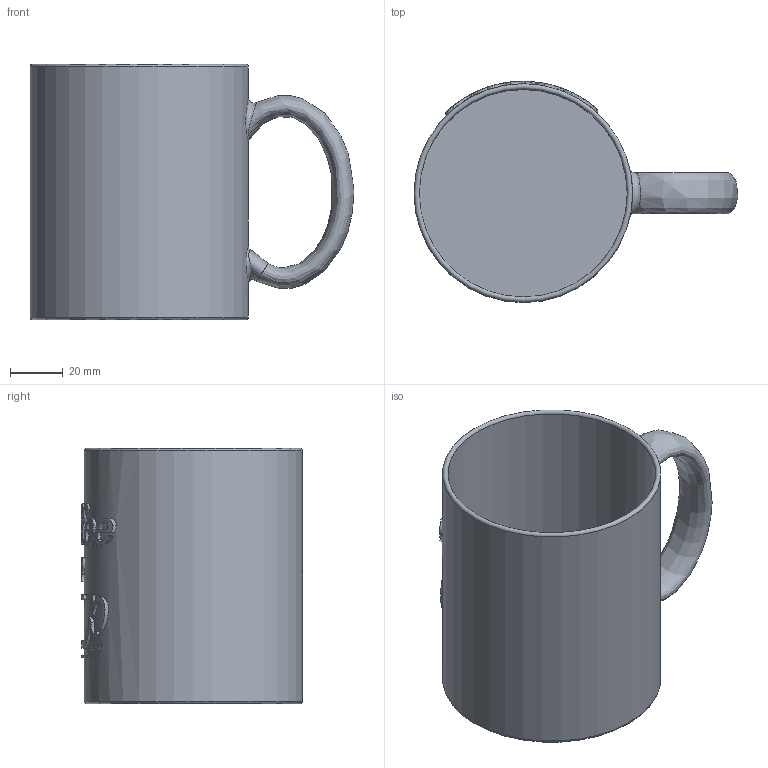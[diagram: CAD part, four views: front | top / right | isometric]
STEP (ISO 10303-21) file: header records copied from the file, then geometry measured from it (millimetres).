
FILE_DESCRIPTION(/* description */ (''),/* implementation_level */ '2;1');
FILE_NAME(/* name */ 'Taza_DibujoMal.stp',/* time_stamp */ '2026-06-15T21:47:00+02:00',/* author */ ('algob'),/* organization */ (''),/* preprocessor_version */ 'ST-DEVELOPER v19.2',/* originating_system */ 'Autodesk Inventor 2024',/* authorisation */ '');
FILE_SCHEMA (('AUTOMOTIVE_DESIGN { 1 0 10303 214 3 1 1 }'));
Length unit declared in the file: millimetre
Products named in the file (1): Taza_Base
Bounding box: 123.08 x 84 x 97 mm (x, y, z)
Volume: 96251.5 mm3; surface area: 63194.8 mm2
Topology: 1 solids, 1 shells, 176 faces, 474 edges, 316 vertices
Faces by surface type: bspline 78, plane 68, cylinder 28, torus 2
Full cylindrical faces by diameter (mm): 79 x1, 83 x1
Entity records: 8467 total; most frequent: CARTESIAN_POINT 4419, ORIENTED_EDGE 948, DIRECTION 638, EDGE_CURVE 474, VERTEX_POINT 316, AXIS2_PLACEMENT_3D 243, EDGE_LOOP 194, B_SPLINE_CURVE_WITH_KNOTS 178
